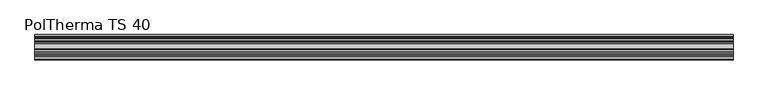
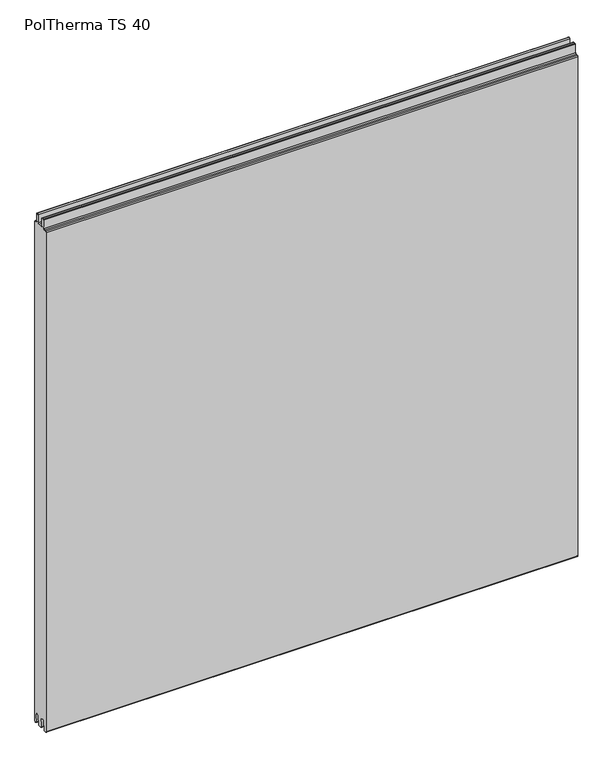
"""IFC4 building model written with IfcOpenShell, lengths in millimetres: plate geometry, Europanels_Poltherma TS_Hz : PolTherma TS 40."""

from ifc_helpers import new_model, si_unit, point, frame, frame_2d, origin, place, context, project, spatial, polyline, circle_curve, trimmed, segment, composite_curve, outline, extrude, source, transform, mapped, element, save


def poltherma_ts_40_2aec9fe8(model_context):
    return source(origin(), model_context, "Body", "SweptSolid", [
        extrude(outline(composite_curve([segment(trimmed(circle_curve(frame_2d((-9.1874198, 1117.5011047)), 2.0), [point((-11.1836192, 1117.624345))], [point((-9.1874198, 1119.5011047))], False, "CARTESIAN"), True, "CONTINUOUS"), segment(polyline([(-9.1874198, 1119.5011047), (-6.4480373, 1119.5011047)]), True, "CONTINUOUS"), segment(trimmed(circle_curve(frame_2d((-6.4480373, 1117.5011047)), 2.0), [point((-6.4480373, 1119.5011047))], [point((-4.4498501, 1117.5862394))], False, "CARTESIAN"), True, "CONTINUOUS"), segment(polyline([(-4.4498501, 1117.5862394), (-3.7101357, 1100.2244834)]), True, "CONTINUOUS"), segment(trimmed(circle_curve(frame_2d((-1.9117672, 1100.3011047)), 1.8), [point((-3.7101357, 1100.2244834))], [point((-1.9117672, 1098.5011047))], True, "CARTESIAN"), True, "CONTINUOUS"), segment(polyline([(-1.9117672, 1098.5011047), (6.113894, 1098.5011047)]), True, "CONTINUOUS"), segment(trimmed(circle_curve(frame_2d((6.113894, 1100.5011047)), 2.0), [point((6.113894, 1098.5011047))], [point((8.1120505, 1100.4152514))], True, "CARTESIAN"), True, "CONTINUOUS"), segment(polyline([(8.1120505, 1100.4152514), (8.8693289, 1117.5889644)]), True, "CONTINUOUS"), segment(trimmed(circle_curve(frame_2d((10.8984404, 1117.5046542)), 2.0308623), [point((8.8693289, 1117.5889644))], [point((11.1407625, 1119.5210078))], False, "CARTESIAN"), True, "CONTINUOUS"), segment(trimmed(circle_curve(frame_2d((11.1407625, 1117.4973942)), 2.0236135), [point((11.1407625, 1119.5210078))], [point((13.1604251, 1117.6237846))], False, "CARTESIAN"), True, "CONTINUOUS"), segment(polyline([(13.1604251, 1117.6237846), (14.2596673, 1100.3765791)]), True, "CONTINUOUS"), segment(trimmed(circle_curve(frame_2d((16.2557869, 1100.5011047)), 2.0), [point((14.2596673, 1100.3765791))], [point((16.2557869, 1098.5011047))], True, "CARTESIAN"), True, "CONTINUOUS"), segment(polyline([(16.2557869, 1098.5011047), (18.0, 1098.5011047)]), True, "CONTINUOUS"), segment(trimmed(circle_curve(frame_2d((18.0, 1096.5011047)), 2.0), [point((18.0, 1098.5011047))], [point((20.0, 1096.5011047))], False, "CARTESIAN"), True, "CONTINUOUS"), segment(polyline([(20.0, 1096.5011047), (20.0, 3.8074585)]), True, "CONTINUOUS"), segment(trimmed(circle_curve(frame_2d((17.6334587, 3.8074585)), 2.3665413), [point((20.0, 3.8074585))], [point((15.2703732, 3.6796133))], False, "CARTESIAN"), True, "CONTINUOUS"), segment(polyline([(15.2703732, 3.6796133), (14.3268153, 21.1203008)]), True, "CONTINUOUS"), segment(trimmed(circle_curve(frame_2d((11.0497759, 20.9430098)), 3.2818316), [point((14.3268153, 21.1203008))], [point((7.7733842, 21.1318916))], True, "CARTESIAN"), True, "CONTINUOUS"), segment(polyline([(7.7733842, 21.1318916), (6.7366349, 3.1481762)]), True, "CONTINUOUS"), segment(trimmed(circle_curve(frame_2d((4.9895357, 3.2488953)), 1.75), [point((6.7366349, 3.1481762))], [point((4.9895357, 1.4988953))], False, "CARTESIAN"), True, "CONTINUOUS"), segment(polyline([(4.9895357, 1.4988953), (-0.5507777, 1.4988953)]), True, "CONTINUOUS"), segment(trimmed(circle_curve(frame_2d((-0.5507777, 3.2988953)), 1.8), [point((-0.5507777, 1.4988953))], [point((-2.3477941, 3.1952985))], False, "CARTESIAN"), True, "CONTINUOUS"), segment(polyline([(-2.3477941, 3.1952985), (-3.3842966, 21.1747334)]), True, "CONTINUOUS"), segment(trimmed(circle_curve(frame_2d((-6.3793238, 21.0020721)), 3.0), [point((-3.3842966, 21.1747334))], [point((-6.3793238, 24.0020721))], True, "CARTESIAN"), True, "CONTINUOUS"), segment(polyline([(-6.3793238, 24.0020721), (-9.3209015, 24.0020721)]), True, "CONTINUOUS"), segment(trimmed(circle_curve(frame_2d((-9.3209015, 21.0020721)), 3.0), [point((-9.3209015, 24.0020721))], [point((-12.3165207, 21.1641379))], True, "CARTESIAN"), True, "CONTINUOUS"), segment(polyline([(-12.3165207, 21.1641379), (-13.2780726, 3.3908514)]), True, "CONTINUOUS"), segment(trimmed(circle_curve(frame_2d((-15.2751521, 3.4988953)), 2.0), [point((-13.2780726, 3.3908514))], [point((-15.2751521, 1.4988953))], False, "CARTESIAN"), True, "CONTINUOUS"), segment(polyline([(-15.2751521, 1.4988953), (-18.0, 1.4988953)]), True, "CONTINUOUS"), segment(trimmed(circle_curve(frame_2d((-18.0, 3.4988953)), 2.0), [point((-18.0, 1.4988953))], [point((-20.0, 3.4988953))], False, "CARTESIAN"), True, "CONTINUOUS"), segment(polyline([(-20.0, 3.4988953), (-20.0, 1096.5011047)]), True, "CONTINUOUS"), segment(trimmed(circle_curve(frame_2d((-18.0, 1096.5011047)), 2.0), [point((-20.0, 1096.5011047))], [point((-18.0, 1098.5011047))], False, "CARTESIAN"), True, "CONTINUOUS"), segment(polyline([(-18.0, 1098.5011047), (-14.244573, 1098.5011047)]), True, "CONTINUOUS"), segment(trimmed(circle_curve(frame_2d((-14.244573, 1100.5011047)), 2.0), [point((-14.244573, 1098.5011047))], [point((-12.2483736, 1100.3778643))], True, "CARTESIAN"), True, "CONTINUOUS"), segment(polyline([(-12.2483736, 1100.3778643), (-11.1836192, 1117.624345)]), True, "CONTINUOUS")], self_intersect=False)), frame((-550.0, 0.0, 0.0), z_axis=(1.0, 0.0, 0.0), x_axis=(0.0, 1.0, 0.0)), (0.0, 0.0, 1.0), 1100.0),
    ])


if __name__ == "__main__":
    model = new_model("IFC4")
    model_context = context("Model", 3, world=origin())
    ifc_project = project(units=[si_unit("LENGTHUNIT", "METRE", prefix="MILLI")], contexts=[model_context])
    site = spatial("IfcSite", under=ifc_project)
    building = spatial("IfcBuilding", under=site)
    placement = place(None, origin())
    poltherma_ts_40_shape = poltherma_ts_40_2aec9fe8(model_context)
    element("IfcPlate", 1, ObjectType="Europanels_Poltherma TS_Hz : PolTherma TS 40", at=placement, inside=building, context=model_context, shape_type="MappedRepresentation", body=[
        mapped(poltherma_ts_40_shape, transform((0.0, 0.0, 0.0), x_axis=(1.0, 0.0, 0.0), y_axis=(0.0, 1.0, 0.0), z_axis=(0.0, 0.0, 1.0))),
    ])
    save(model, "model.ifc")
